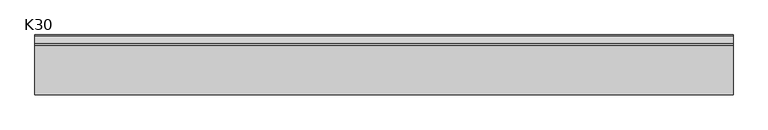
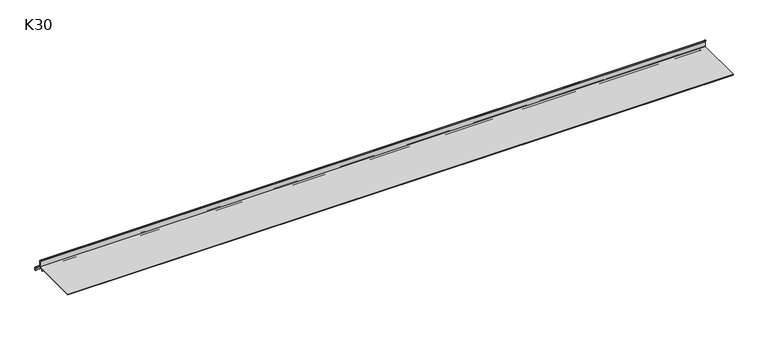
"""IFC4 building model written with IfcOpenShell, lengths in millimetres: proxy geometry, K30 Profil okapowy prosty : K30."""

from ifc_helpers import new_model, si_unit, frame, origin, place, context, project, spatial, polyline, circle_curve, source, transform, mapped, element, save
from ifc_brep_helpers import plane_surface, cylinder_surface, revolved_surface, advanced_brep


def k30_8aa74587(model_context):
    return source(origin(), model_context, "Body", "AdvancedBrep", [
        advanced_brep(
        [(0.0, -91.6460788, -13.5016844), (0.0, 0.9925542, -13.5016844), (0.0, 0.9925542, -2.7625682), (0.0, 0.0, -1.79984), (0.0, 0.0, 0.0), (0.0, 2.7996151, -2.7535764), (0.0, 2.800002, -12.5354797), (0.0, 3.2334641, -13.4129661), (0.0, 17.5987866, -24.2341015), (0.0, 18.7937577, -26.6303216), (0.0, 18.7937577, -30.413733), (0.0, 17.0937577, -30.413733), (0.0, 17.0937577, -26.9794046), (0.0, 16.2971103, -25.3819245), (0.0, 2.7771023, -15.1975491), (0.0, -4.0074458, -15.1975491), (0.0, -4.0074458, -19.1975491), (0.0, -5.0074458, -19.1975491), (0.0, -5.0074458, -15.1970829), (0.0, -91.6460788, -15.1970829), (1289.0291144, -91.6460788, -13.5016844), (1289.0291144, -91.6460788, -15.1970829), (1289.0291144, -5.0074458, -15.1970829), (1289.0291144, -5.0074458, -19.1975491), (1289.0291144, -4.0074458, -19.1975491), (1289.0291144, -4.0074458, -15.1975491), (1289.0291144, 2.7771023, -15.1975491), (1289.0291144, 16.2971103, -25.3819245), (1289.0291144, 17.0937577, -26.9794046), (1289.0291144, 17.0937577, -30.413733), (1289.0291144, 18.7937577, -30.413733), (1289.0291144, 18.7937577, -26.6303216), (1289.0291144, 17.5987866, -24.2341015), (1289.0291144, 3.2334641, -13.4129661), (1289.0291144, 2.800002, -12.5354797), (1289.0291144, 2.800002, -2.7535764), (1289.0291144, 0.0, 0.0), (1289.0291144, 0.0, -1.79984), (1289.0291144, 0.9925542, -2.7625682), (1289.0291144, 0.9925542, -13.5016844)],
        [
            (0, 1),
            (1, 2),
            (2, 3, circle_curve(frame((0.0, 0.0049314, -2.7877721), z_axis=(1.0, 0.0, 0.0), x_axis=(0.0, -0.004991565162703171, 0.9999875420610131)), 0.9879444)),
            (3, 4),
            (4, 5, circle_curve(frame((0.0, 0.0455531, -2.7536853), z_axis=(-1.0, 0.0, 0.0), x_axis=(0.0, 0.9999999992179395, 3.954897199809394e-05)), 2.754062)),
            (5, 6),
            (6, 7, circle_curve(frame((0.0, 3.8882646, -12.5437023), z_axis=(1.0, 0.0, 0.0), x_axis=(0.0, -0.6016762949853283, -0.7987400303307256)), 1.0882937)),
            (7, 8),
            (8, 9, circle_curve(frame((0.0, 15.7937577, -26.6303216), z_axis=(-1.0, 0.0, 0.0), x_axis=(0.0, 1.0, 0.0)), 3.0)),
            (9, 10),
            (10, 11, circle_curve(frame((0.0, 17.9437577, -30.413733), z_axis=(-1.0, 0.0, 0.0), x_axis=(0.0, -1.0, -1.0699937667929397e-12)), 0.85)),
            (11, 12),
            (12, 13, circle_curve(frame((0.0, 15.0937577, -26.9794046), z_axis=(1.0, 0.0, 0.0), x_axis=(0.0, 0.6016762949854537, 0.7987400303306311)), 2.0)),
            (13, 14),
            (14, 15),
            (15, 16),
            (16, 17),
            (17, 18),
            (18, 19),
            (19, 0),
            (20, 21),
            (21, 22),
            (22, 23),
            (23, 24),
            (24, 25),
            (25, 26),
            (26, 27),
            (27, 28, circle_curve(frame((1289.0291144, 15.0937577, -26.9794046), z_axis=(-1.0, 0.0, 0.0), x_axis=(0.0, 0.6016762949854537, 0.7987400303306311)), 2.0)),
            (28, 29),
            (29, 30, circle_curve(frame((1289.0291144, 17.9437577, -30.413733), z_axis=(1.0, 0.0, 0.0), x_axis=(0.0, -1.0, -1.0699937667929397e-12)), 0.85)),
            (30, 31),
            (31, 32, circle_curve(frame((1289.0291144, 15.7937577, -26.6303216), z_axis=(1.0, 0.0, 0.0), x_axis=(0.0, 1.0, 0.0)), 3.0)),
            (32, 33),
            (33, 34, circle_curve(frame((1289.0291144, 3.8882646, -12.5437023), z_axis=(-1.0, 0.0, 0.0), x_axis=(0.0, -0.6016762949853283, -0.7987400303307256)), 1.0882937)),
            (34, 35),
            (35, 36, circle_curve(frame((1289.0291144, 0.0455531, -2.7536853), z_axis=(1.0, 0.0, 0.0), x_axis=(0.0, 0.9999999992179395, 3.954897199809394e-05)), 2.754062)),
            (36, 37),
            (37, 38, circle_curve(frame((1289.0291144, 0.0049314, -2.7877721), z_axis=(-1.0, 0.0, 0.0), x_axis=(0.0, -0.004991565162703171, 0.9999875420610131)), 0.9879444)),
            (38, 39),
            (39, 20),
            (0, 20),
            (39, 1),
            (19, 21),
            (18, 22),
            (17, 23),
            (16, 24),
            (15, 25),
            (14, 26),
            (13, 27),
            (12, 28),
            (11, 29),
            (10, 30),
            (9, 31),
            (8, 32),
            (7, 33),
            (6, 34),
            (5, 35),
            (4, 36),
            (3, 37),
            (2, 38),
        ],
        [
            plane_surface(frame((0.0, 0.0, 0.0), z_axis=(-1.0, 0.0, 0.0), x_axis=(0.0, 0.0, 1.0))),
            plane_surface(frame((1289.0291144, 0.0, 0.0), z_axis=(1.0, 0.0, 0.0), x_axis=(0.0, 0.0, 1.0))),
            plane_surface(frame((0.0, 0.9925542, -13.5016844), z_axis=(0.0, 0.0, 1.0), x_axis=(1.0, 0.0, 0.0))),
            plane_surface(frame((0.0, -91.6460788, -13.5016844), z_axis=(0.0, -1.0, 0.0), x_axis=(1.0, 0.0, 0.0))),
            plane_surface(frame((0.0, -91.6460788, -15.1970829), z_axis=(0.0, 0.0, -1.0), x_axis=(1.0, 0.0, 0.0))),
            plane_surface(frame((0.0, -5.0074458, -15.1970829), z_axis=(0.0, -1.0, 0.0), x_axis=(1.0, 0.0, 0.0))),
            plane_surface(frame((0.0, -5.0074458, -19.1975491), z_axis=(0.0, 0.0, -1.0), x_axis=(1.0, 0.0, 0.0))),
            plane_surface(frame((0.0, -4.0074458, -19.1975491), z_axis=(0.0, 1.0, 0.0), x_axis=(1.0, 0.0, 0.0))),
            plane_surface(frame((0.0, -4.0074458, -15.1975491), z_axis=(0.0, 0.0, -1.0), x_axis=(1.0, 0.0, 0.0))),
            plane_surface(frame((0.0, 2.7771023, -15.1975491), z_axis=(0.0, -0.6016762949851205, -0.798740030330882), x_axis=(1.0, 0.0, 0.0))),
            revolved_surface(polyline([(1289.0291144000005, 16.297110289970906, -25.381924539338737), (0.0, 16.297110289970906, -25.381924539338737)]), (0.0, 15.0937577, -26.9794046), (1.0000000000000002, 0.0, 0.0)),
            plane_surface(frame((0.0, 17.0937577, -26.9794046), z_axis=(0.0, -1.0, 0.0), x_axis=(1.0, 0.0, 0.0))),
            cylinder_surface(frame((0.0, 17.9437577, -30.413733), z_axis=(-1.0, 0.0, 0.0), x_axis=(0.0, -1.0, -1.0699937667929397e-12)), 0.85),
            plane_surface(frame((0.0, 18.7937577, -30.413733), z_axis=(0.0, 1.0, 0.0), x_axis=(1.0, 0.0, 0.0))),
            cylinder_surface(frame((0.0, 15.7937577, -26.6303216), z_axis=(-1.0, 0.0, 0.0), x_axis=(0.0, 1.0, 0.0)), 3.0),
            plane_surface(frame((0.0, 17.5987866, -24.2341015), z_axis=(0.0, 0.6016762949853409, 0.7987400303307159), x_axis=(1.0, 0.0, 0.0))),
            revolved_surface(polyline([(1289.0291144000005, 3.2334640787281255, -13.412966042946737), (0.0, 3.2334640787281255, -13.412966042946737)]), (0.0, 3.8882646, -12.5437023), (1.0000000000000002, 0.0, 0.0)),
            plane_surface(frame((0.0, 2.800002, -12.5354797), z_axis=(0.0, 1.0, 0.0), x_axis=(1.0, 0.0, 0.0))),
            cylinder_surface(frame((0.0, 0.0455531, -2.7536853), z_axis=(-1.0000000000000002, 0.0, 0.0), x_axis=(0.0, 0.9999999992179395, 3.954897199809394e-05)), 2.754062),
            plane_surface(frame((0.0, 0.0, 0.0), z_axis=(0.0, -1.0, 0.0), x_axis=(1.0, 0.0, 0.0))),
            revolved_surface(polyline([(1289.0291144, 1.115027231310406e-08, -1.799840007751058), (0.0, 1.115027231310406e-08, -1.799840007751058)]), (0.0, 0.0049314, -2.7877721), (1.0, 0.0, 0.0)),
            plane_surface(frame((0.0, 0.9925542, -2.7625682), z_axis=(0.0, -1.0, 0.0), x_axis=(1.0, 0.0, 0.0))),
        ],
        [
            (0, [[1, 2, 3, 4, 5, 6, 7, 8, 9, 10, 11, 12, 13, 14, 15, 16, 17, 18, 19, 20]]),
            (1, [[21, 22, 23, 24, 25, 26, 27, 28, 29, 30, 31, 32, 33, 34, 35, 36, 37, 38, 39, 40]]),
            (2, [[41, -40, 42, -1]]),
            (3, [[43, -21, -41, -20]]),
            (4, [[44, -22, -43, -19]]),
            (5, [[45, -23, -44, -18]]),
            (6, [[46, -24, -45, -17]]),
            (7, [[47, -25, -46, -16]]),
            (8, [[48, -26, -47, -15]]),
            (9, [[49, -27, -48, -14]]),
            (10, [[50, -28, -49, -13]]),
            (11, [[51, -29, -50, -12]]),
            (12, [[52, -30, -51, -11]]),
            (13, [[53, -31, -52, -10]]),
            (14, [[54, -32, -53, -9]]),
            (15, [[55, -33, -54, -8]]),
            (16, [[56, -34, -55, -7]]),
            (17, [[57, -35, -56, -6]]),
            (18, [[58, -36, -57, -5]]),
            (19, [[59, -37, -58, -4]]),
            (20, [[60, -38, -59, -3]]),
            (21, [[-42, -39, -60, -2]]),
        ],
    ),
    ])


if __name__ == "__main__":
    model = new_model("IFC4")
    model_context = context("Model", 3, world=origin())
    ifc_project = project(units=[si_unit("LENGTHUNIT", "METRE", prefix="MILLI")], contexts=[model_context])
    site = spatial("IfcSite", under=ifc_project)
    building = spatial("IfcBuilding", under=site)
    placement = place(None, origin())
    k30_shape = k30_8aa74587(model_context)
    element("IfcBuildingElementProxy", 1, Name="K30 Profil okapowy prosty : K30", ObjectType="K30 Profil okapowy prosty : K30", at=placement, inside=building, context=model_context, shape_type="MappedRepresentation", body=[
        mapped(k30_shape, transform((0.0, 0.0, 0.0), x_axis=(1.0, 0.0, 0.0), y_axis=(0.0, 1.0, 0.0), z_axis=(0.0, 0.0, 1.0))),
    ])
    save(model, "model.ifc")
